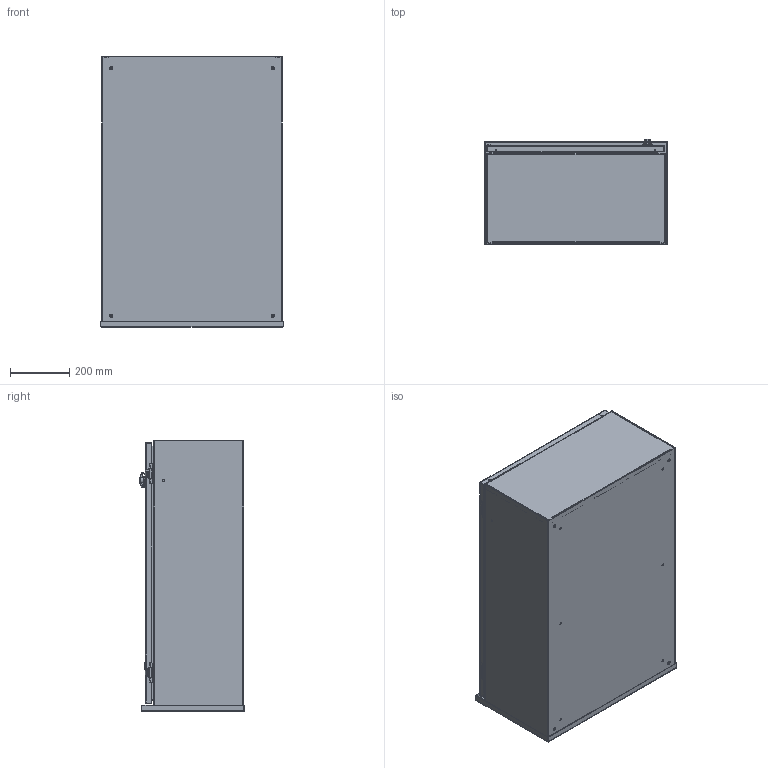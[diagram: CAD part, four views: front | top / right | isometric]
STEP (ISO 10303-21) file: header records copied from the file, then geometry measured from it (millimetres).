
FILE_DESCRIPTION((''),'2;1');
FILE_NAME('MODEL-384_ASM','2026-08-21T09:36:03',('richards'),('SAGINAW CONTROL & ENGINEERING'),'CREO PARAMETRIC BY PTC INC, 2021284','CREO PARAMETRIC BY PTC INC, 2021284','');
FILE_SCHEMA(('AUTOMOTIVE_DESIGN { 1 0 10303 214 1 1 1 1 }'));
Length unit declared in the file: inch
Products named in the file (35): MODEL-384-BDY; MODEL-384-BTM; MODEL-384-TP; MODEL-384-DR; 100794_SHAFT; 100794_INSERT; 100794_CAM; 100794_NUT; 100794_SCREW; 100794_ASM; 105260_SHAFT; 105260_O-RING; 105260_HANDLE; 105260_CAM; 105260_NUT; 105260_SCREW; 105260_ASM; 100837; MODEL-384-GSKT; 126391; 126391_ASM; 126393; 101376; 101226; 102483; 102140; 132757; 125597; MODEL-384-DOOR-ASSY_ASM; 101653; 117919; SUBPANEL; 100904; SUBPANEL-SUBASSEMBLY_ASM; MODEL-384_ASM
Assembly tree (56 placements, depth 4):
  MODEL-384_ASM
    MODEL-384-BDY
    MODEL-384-BTM
    MODEL-384-TP
    MODEL-384-DOOR-ASSY_ASM
      MODEL-384-DR
      100794_ASM
        100794_SHAFT
        100794_INSERT
        100794_CAM
        100794_NUT
        100794_SCREW
      105260_ASM
        105260_SHAFT
        105260_O-RING
        105260_HANDLE
        105260_CAM
        105260_NUT
        105260_SCREW
      100837
      MODEL-384-GSKT
      126391_ASM  x2
        126391
      126393  x2
      101376  x2
      101226  x2
      102483  x6
      102140  x2
      132757  x2
      125597
    100837
    101653  x6
    117919
    SUBPANEL-SUBASSEMBLY_ASM
      SUBPANEL
      100904  x6
Bounding box: 615.59 x 354.51 x 914.4 mm (x, y, z)
Volume: 6258102.1 mm3; surface area: 5776174.5 mm2
Topology: 53 solids, 53 shells, 2873 faces, 7260 edges, 4558 vertices
Faces by surface type: plane 1291, cylinder 962, torus 235, bspline 211, cone 110, sphere 64
Entity records: 97450 total; most frequent: CARTESIAN_POINT 22129, DIRECTION 11049, ORIENTED_EDGE 10756, PRESENTATION_STYLE_ASSIGNMENT 5474, EDGE_CURVE 5378, STYLED_ITEM 5134, CURVE_STYLE 4942, AXIS2_PLACEMENT_3D 3937
